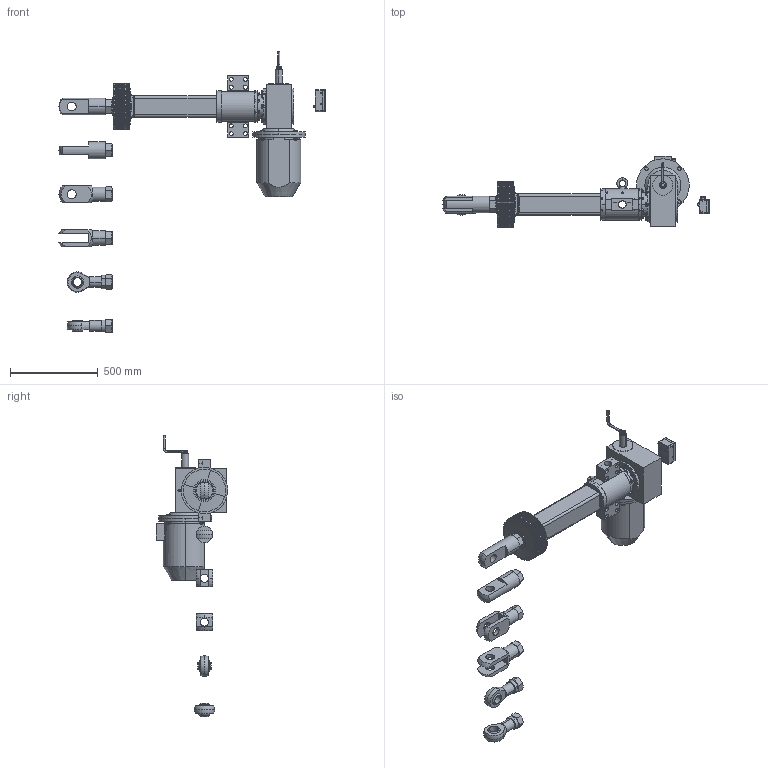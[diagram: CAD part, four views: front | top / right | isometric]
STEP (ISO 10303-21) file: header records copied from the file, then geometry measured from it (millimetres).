
FILE_DESCRIPTION (( 'STEP AP203' ), '1' );
FILE_NAME ('Ì4 10 300.STEP', '2016-12-21T09:04:03', ( '' ), ( '' ), 'SwSTEP 2.0', 'SolidWorks 2012', '' );
FILE_SCHEMA (( 'CONFIG_CONTROL_DESIGN' ));
Products named in the file (9): ﾌ4 10 300; 迕10; 苂10; 迍 10; ﾁﾑﾏ; Ãîôð Ñ4_•®¤600; ﾒ矜 10; ﾑ4 10 1; ﾌ4 10 矜鈞
Assembly tree (10 placements, depth 2):
  ﾌ4 10 300
    ﾌ4 10 矜鈞
    ﾑ4 10 1
    ﾒ矜 10
    Ãîôð Ñ4_•®¤600
    ﾁﾑﾏ
    迍 10
    苂10  x2
    迕10  x2
Bounding box: 1516 x 405.76 x 1601 mm (x, y, z)
Volume: 1267869.7 mm3; surface area: 6077834.9 mm2
Topology: 1 solids, 211 shells, 1906 faces, 5216 edges, 3541 vertices
Faces by surface type: plane 759, cylinder 599, cone 414, torus 62, sphere 60, bspline 12
Entity records: 62601 total; most frequent: CARTESIAN_POINT 15144, DIRECTION 10383, ORIENTED_EDGE 8387, EDGE_CURVE 4956, AXIS2_PLACEMENT_3D 4163, VERTEX_POINT 3384, CIRCLE 2328, EDGE_LOOP 2180
